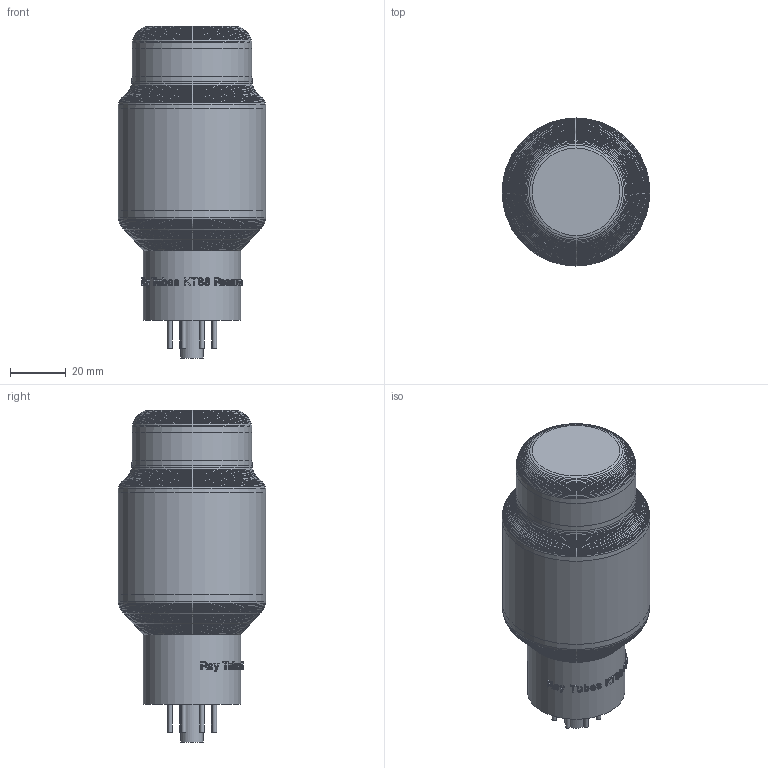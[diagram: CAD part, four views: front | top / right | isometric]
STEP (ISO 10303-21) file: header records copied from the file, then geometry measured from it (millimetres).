
FILE_DESCRIPTION(('Open CASCADE Model'),'2;1');
FILE_NAME('Open CASCADE Shape Model','2026-06-14T20:42:20',('Author'),( 'Open CASCADE'),'Open CASCADE STEP processor 7.8','Open CASCADE 7.8' ,'Unknown');
FILE_SCHEMA(('AUTOMOTIVE_DESIGN { 1 0 10303 214 1 1 1 1 }'));
Length unit declared in the file: millimetre
Products named in the file (6): Ray_Tubes_KT88_Reserve_from_DXF_mm; Socket_layer; Socket_key_layer; Glas_layer; Pin_layer; Model_label_layer
Assembly tree (5 placements, depth 2):
  Ray_Tubes_KT88_Reserve_from_DXF_mm
    Socket_layer
    Socket_key_layer
    Glas_layer
    Pin_layer
    Model_label_layer
Bounding box: 53 x 53 x 119 mm (x, y, z)
Volume: 175835.5 mm3; surface area: 20791.5 mm2
Topology: 30 solids, 30 shells, 568 faces, 1438 edges, 930 vertices
Faces by surface type: extrusion 308, plane 163, cone 85, cylinder 12
Full cylindrical faces by diameter (mm): 1.6 x8, 8 x1, 35 x1, 43 x1, 53 x1
Entity records: 17628 total; most frequent: CARTESIAN_POINT 4790, ORIENTED_EDGE 2876, DIRECTION 1770, EDGE_CURVE 1438, VECTOR 1022, VERTEX_POINT 930, B_SPLINE_CURVE_WITH_KNOTS 924, LINE 714
